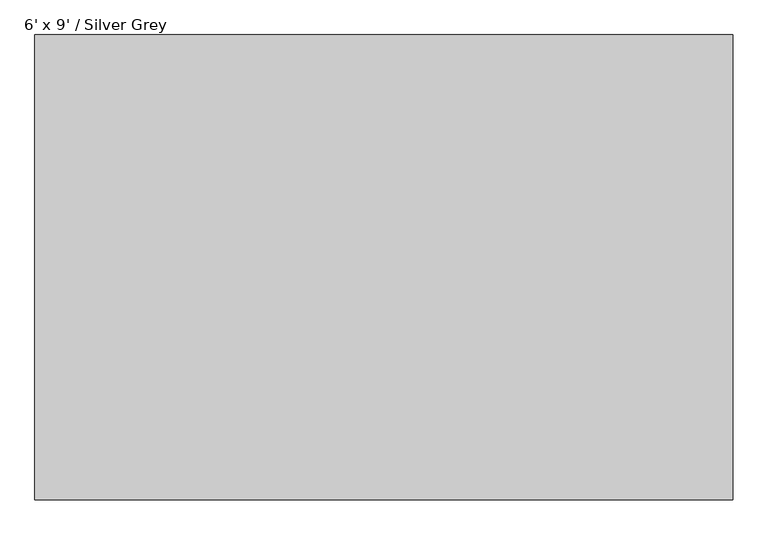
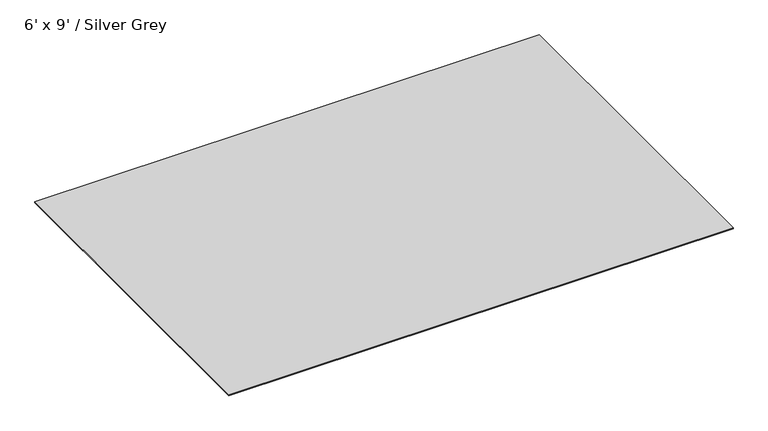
"""IFC4 building model written with IfcOpenShell, lengths in millimetres: furniture geometry, Blu Dot - Pim Pim - Rug : 6' x 9' / Silver Grey."""

from ifc_helpers import new_model, si_unit, origin, origin_with_axes, place, context, project, spatial, polyline, outline, extrude, source, transform, mapped, element, save


def furniture_6_x_9_silver_grey_638f6850(model_context):
    return source(origin(), model_context, "Body", "SweptSolid", [
        extrude(outline(polyline([(1371.6, -914.4), (-1371.6, -914.4), (-1371.6, 914.4), (1371.6, 914.4), (1371.6, -914.4)])), origin_with_axes(), (0.0, 0.0, 1.0), 6.35),
    ])


if __name__ == "__main__":
    model = new_model("IFC4")
    model_context = context("Model", 3, world=origin())
    ifc_project = project(units=[si_unit("LENGTHUNIT", "METRE", prefix="MILLI")], contexts=[model_context])
    site = spatial("IfcSite", under=ifc_project)
    building = spatial("IfcBuilding", under=site)
    placement = place(None, origin())
    furniture_6_x_9_silver_grey_shape = furniture_6_x_9_silver_grey_638f6850(model_context)
    element("IfcFurniture", 1, ObjectType="Blu Dot - Pim Pim - Rug : 6' x 9' / Silver Grey", at=placement, inside=building, context=model_context, shape_type="MappedRepresentation", body=[
        mapped(furniture_6_x_9_silver_grey_shape, transform((0.0, 0.0, 0.0), x_axis=(1.0, 0.0, 0.0), y_axis=(0.0, 1.0, 0.0), z_axis=(0.0, 0.0, 1.0))),
    ])
    save(model, "model.ifc")
